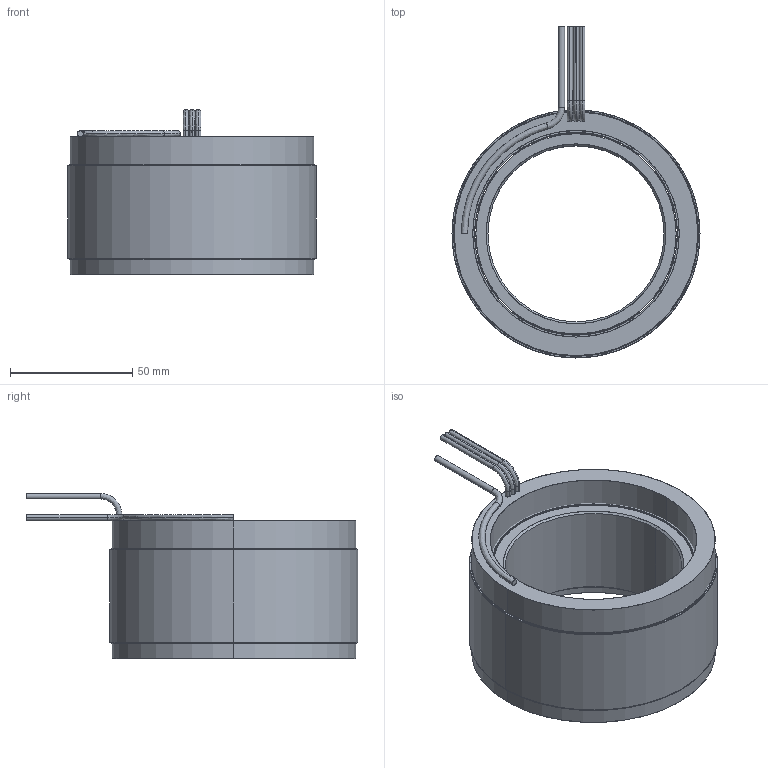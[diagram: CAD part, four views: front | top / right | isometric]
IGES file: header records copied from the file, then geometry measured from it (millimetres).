
Start section: SolidWorks IGES file using analytic representation for surfaces
Global section: file name: \\fs01.aveox.local\user documents\eng\My Documents\6100395-XX STATOR AND ROTOR SET, UT-4000-32P3, SENSORLESS\6100395-05.IGS; native system: SolidWorks 2016; preprocessor: SolidWorks 2016; author: eng; date: 201215.093557; units: inch
Bounding box: 101.6 x 135.89 x 67.69 mm (x, y, z)
Surface area: 108019.5 mm2 (no closed solid volume)
Topology: 0 solids, 0 shells, 75 faces, 2224 edges, 2224 vertices
Faces by surface type: revolution 46, bspline 29
